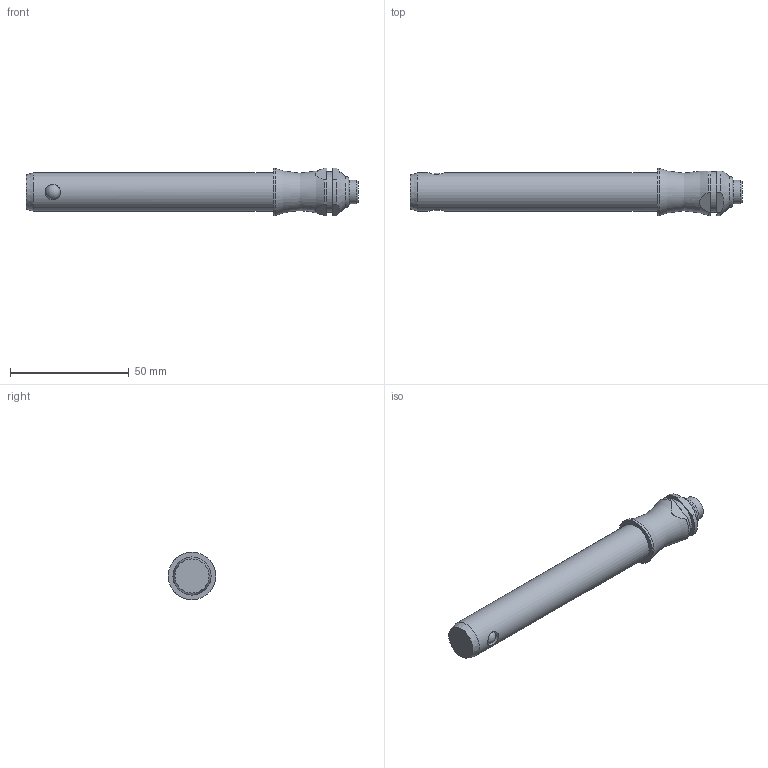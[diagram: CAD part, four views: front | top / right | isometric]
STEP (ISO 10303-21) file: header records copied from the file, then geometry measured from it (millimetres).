
FILE_DESCRIPTION( ( 'STEP AP203' ), '1' );
FILE_NAME( 'C:/Temp/Ganter_Step_05_03_2020/data/3_1/gn113_3/Stainless Steel-Ball lock pin GN 113.3-16-90 (activated).stp', '2020-03-12T08:18:57', ( 'License CC BY-ND 4.0' ), ( 'CADENAS' ), ' ', 'PARTsolutions', ' ' );
FILE_SCHEMA( ( 'CONFIG_CONTROL_DESIGN' ) );
Length unit declared in the file: millimetre
Products named in the file (1): _Stainless Steel-Ball lock pin GN 113.3-16-90 (activated)
Bounding box: 139.75 x 20 x 20 mm (x, y, z)
Volume: 28458.9 mm3; surface area: 7834.4 mm2
Topology: 1 solids, 1 shells, 30 faces, 68 edges, 43 vertices
Faces by surface type: cylinder 12, plane 11, cone 3, torus 2, sphere 2
Full cylindrical faces by diameter (mm): 6.5 x2, 10 x1, 16 x1, 17 x1, 20 x1
Entity records: 1014 total; most frequent: CARTESIAN_POINT 364, DIRECTION 130, ORIENTED_EDGE 102, AXIS2_PLACEMENT_3D 56, EDGE_CURVE 51, EDGE_LOOP 46, VERTEX_POINT 40, FACE_OUTER_BOUND 38
